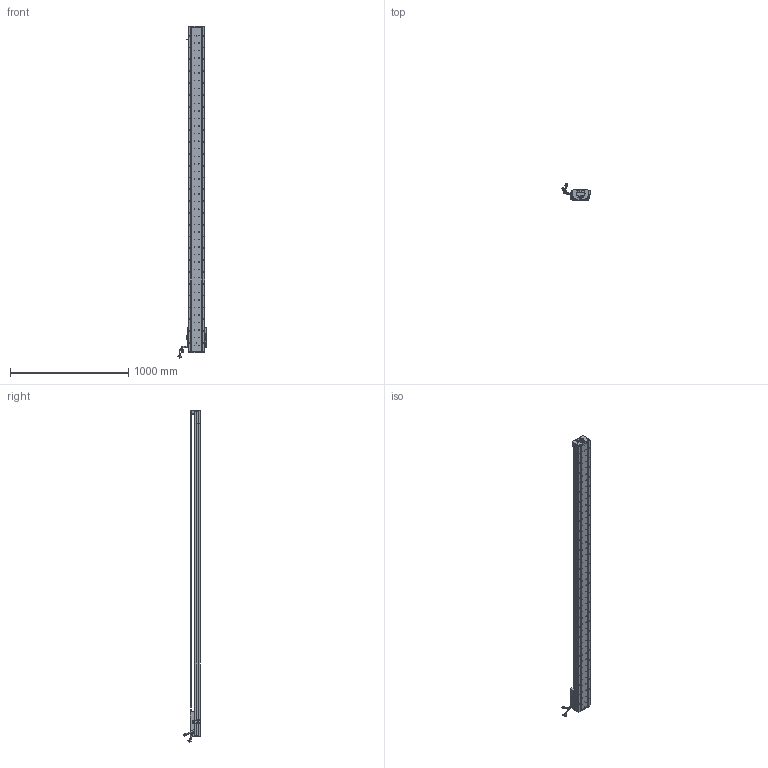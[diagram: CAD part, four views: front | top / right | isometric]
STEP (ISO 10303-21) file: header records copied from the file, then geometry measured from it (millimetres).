
FILE_DESCRIPTION (( 'STEP AP203' ), '1' );
FILE_NAME ('Z2-RY140D-1-L500-B-K.SLDASM_2500.step', '2021-05-17T07:50:00', ( '盈信电脑' ), ( '东莞市道滘镇水果街19号' ), 'SwSTEP 2.0', 'SolidWorks 2016', '' );
FILE_SCHEMA (( 'CONFIG_CONTROL_DESIGN' ));
Length unit declared in the file: millimetre
Products named in the file (36): HARNESS; COVER-Part-1; 140-Z-臏賑輸盄裔(21遴); Z2-RY140圉猾敕臏賑輸(21遴); Z-140詩湍傷裔啣; SCREW-M1.6-1; SCALE-Part-2; Z2-RY140-L500詩湍100mm遵_2500; Z2-RY140D-1-L500-B-K.SLDASM_2500; PBU_SHEET; LABEL; SEAL; SCREW-M1.6-2; SCREW-M1.6-3; COVER; SCREW-M1.6; 覜茼ん672; HARNESS-Part-1; 榋妏寠巭燃_暯_M2_2; PSLH080_PSLF2; SCREW-M1.7; Z-RY140詩湍奻揤裔; HARNESS-Part-2; 140蚥薯蝶輸; 140雄赽晤鎢ん堤盄; SCREW-M1.7-1; SCALE; Z2-RY140-L500直线电机模组底座_2500; SCALE-Part-1; SEAL-Part-1; LABEL-Part-1; Z-RY140詩湍狟揤裔; 080黍杅芛假蚾釱21遴; SHIELDPLATE; HOLDER0; Z-RY140感应器672光电感应片
Assembly tree (41 placements, depth 4):
  Z2-RY140D-1-L500-B-K.SLDASM_2500
    Z2-RY140-L500直线电机模组底座_2500
    Z-RY140感应器672光电感应片
    Z2-RY140圉猾敕臏賑輸(21遴)
    覜茼ん672  x3
    Z2-RY140-L500詩湍100mm遵_2500
    PSLH080_PSLF2
      SCALE
        SCALE-Part-1
        SCALE-Part-2
      HARNESS
        HARNESS-Part-1
        HARNESS-Part-2
      LABEL
        LABEL-Part-1
      COVER
        COVER-Part-1
      SEAL
        SEAL-Part-1
      榋妏寠巭燃_暯_M2_2
      SHIELDPLATE
      SCREW-M1.7
      SCREW-M1.7-1
      PBU_SHEET
      SCREW-M1.6
      SCREW-M1.6-1
      SCREW-M1.6-2
      SCREW-M1.6-3
      HOLDER0
    080黍杅芛假蚾釱21遴
    140-Z-臏賑輸盄裔(21遴)
    Z-140詩湍傷裔啣  x2
    Z-RY140詩湍狟揤裔  x2
    Z-RY140詩湍奻揤裔  x2
    140蚥薯蝶輸  x2
    140雄赽晤鎢ん堤盄
Bounding box: 239.79 x 143.77 x 2810.87 mm (x, y, z)
Volume: 8766908 mm3; surface area: 2304287.2 mm2
Topology: 36 solids, 36 shells, 4186 faces, 11410 edges, 7229 vertices
Faces by surface type: cylinder 2276, plane 1380, cone 398, torus 79, bspline 53
Entity records: 133474 total; most frequent: CARTESIAN_POINT 37993, ORIENTED_EDGE 19732, DIRECTION 18206, EDGE_CURVE 9866, AXIS2_PLACEMENT_3D 6778, VERTEX_POINT 6397, LINE 4650, VECTOR 4650
